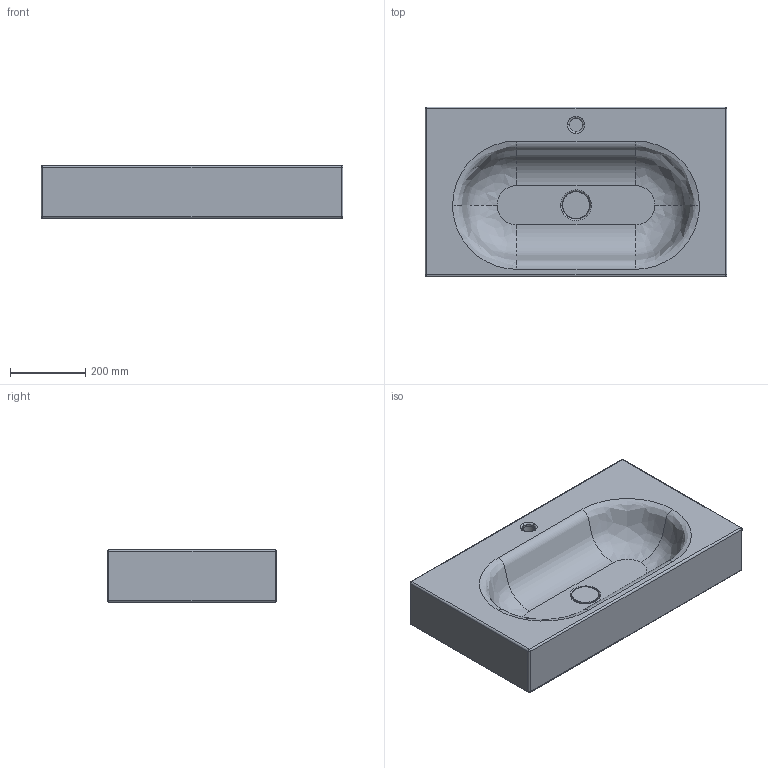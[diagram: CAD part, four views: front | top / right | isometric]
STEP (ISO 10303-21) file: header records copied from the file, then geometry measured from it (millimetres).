
FILE_DESCRIPTION(/* description */ (''),/* implementation_level */ '2;1');
FILE_NAME(/* name */ 'LAVABO MASSIMO DA 80',/* time_stamp */ '2026-05-08T15:24:52+02:00',/* author */ (''),/* organization */ (''),/* preprocessor_version */ 'ST-DEVELOPER v19.2',/* originating_system */ 'Rhino 8.30',/* authorisation */ '');
FILE_SCHEMA (('CONFIG_CONTROL_DESIGN'));
Length unit declared in the file: millimetre
Products named in the file (1): Document
Bounding box: 800 x 450 x 140 mm (x, y, z)
Volume: 20872.7 mm3; surface area: 1168248.9 mm2
Topology: 1 solids, 2 shells, 60 faces, 124 edges, 70 vertices
Faces by surface type: bspline 28, cylinder 22, plane 10
Entity records: 2668 total; most frequent: CARTESIAN_POINT 1601, ORIENTED_EDGE 244, EDGE_CURVE 124, DIRECTION 122, AXIS2_PLACEMENT_3D 77, VERTEX_POINT 70, EDGE_LOOP 63, ADVANCED_FACE 60
